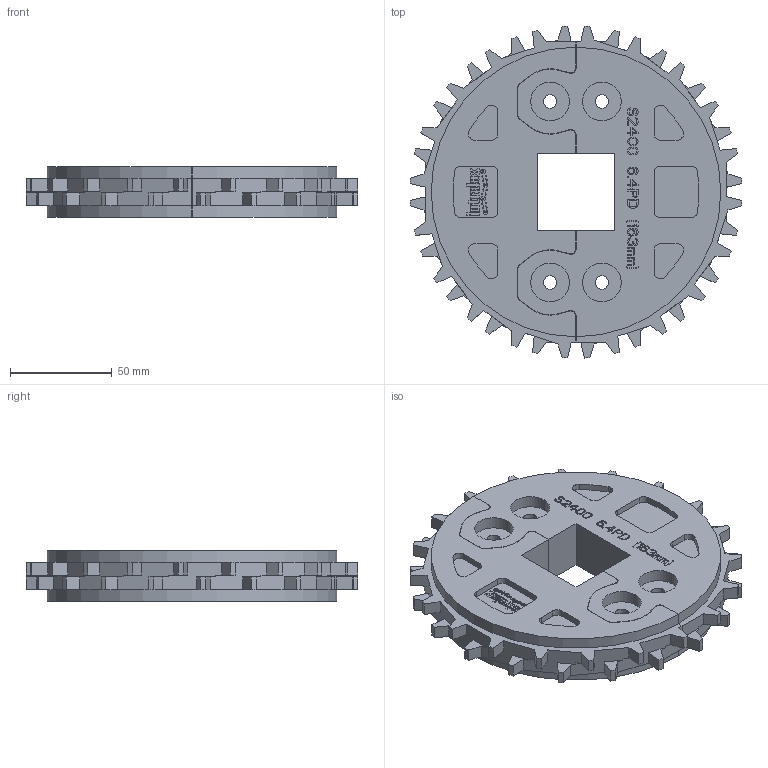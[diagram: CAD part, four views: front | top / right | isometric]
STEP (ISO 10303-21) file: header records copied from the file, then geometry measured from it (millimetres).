
FILE_DESCRIPTION((''),'2;1');
FILE_NAME('S2400_SPLIT_64X15_40_SQ_ASM','2008-12-12T',('jmumphre'),(''),'PRO/ENGINEER BY PARAMETRIC TECHNOLOGY CORPORATION, 2008150','PRO/ENGINEER BY PARAMETRIC TECHNOLOGY CORPORATION, 2008150','');
FILE_SCHEMA(('CONFIG_CONTROL_DESIGN'));
Length unit declared in the file: inch
Products named in the file (3): S2400_SPLIT_64X15_40_SQ_AF0; S2400_SPLIT_64X15_40_SQ_AF1; S2400_SPLIT_64X15_40_SQ_ASM
Assembly tree (2 placements, depth 2):
  S2400_SPLIT_64X15_40_SQ_ASM
    S2400_SPLIT_64X15_40_SQ_AF0
    S2400_SPLIT_64X15_40_SQ_AF1
Bounding box: 163.07 x 163.07 x 24.89 mm (x, y, z)
Volume: 358838 mm3; surface area: 75703.6 mm2
Topology: 2 solids, 2 shells, 2004 faces, 5694 edges, 3796 vertices
Faces by surface type: plane 1652, cylinder 352
Entity records: 64528 total; most frequent: CARTESIAN_POINT 11499, ORIENTED_EDGE 11388, DIRECTION 10416, EDGE_CURVE 5694, VECTOR 4990, LINE 4990, VERTEX_POINT 3796, AXIS2_PLACEMENT_3D 2713
